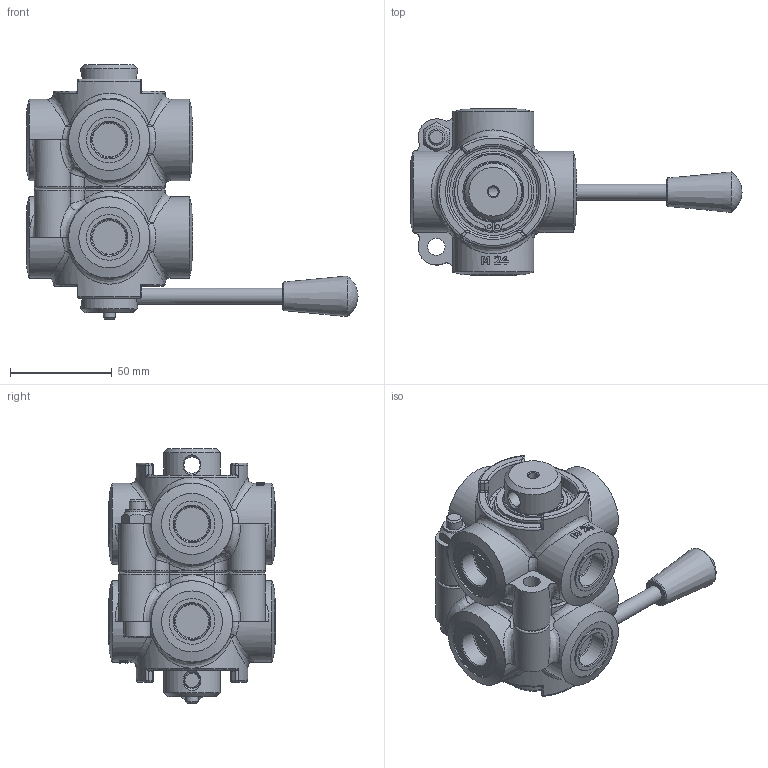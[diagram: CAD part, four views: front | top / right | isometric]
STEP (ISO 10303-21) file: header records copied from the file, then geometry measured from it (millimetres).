
FILE_DESCRIPTION((''),'2;1');
FILE_NAME('G:\HV_HYDRAULIC\AZIENDA_HV_HYDRAULIC\ARCHIVIO_DISEGNI\5_PRODOTTI_FINITI\2_DEVIATORI_INVERTITORI\7005_D8\7005.0101_D8_1-2_G_ca_(HV)\7005.0101.stp','2024-08-30T08:20:48',('christian.scardovi'),(''),'Autodesk Inventor 2013','Autodesk Inventor 2013','');
FILE_SCHEMA(('AUTOMOTIVE_DESIGN { 1 0 10303 214 1 1 1 1 }'));
Length unit declared in the file: millimetre
Products named in the file (1): 7005.0101
Bounding box: 163.5 x 82 x 125.25 mm (x, y, z)
Volume: 408498.2 mm3; surface area: 57981.1 mm2
Topology: 1 solids, 1 shells, 508 faces, 1212 edges, 722 vertices
Faces by surface type: plane 148, cylinder 137, bspline 86, torus 85, cone 31, sphere 21
Full cylindrical faces by diameter (mm): 2 x4, 4.917 x1, 6 x1, 8 x4, 8.5 x1, 11.05 x1, 13 x1, 17.5 x8, 22.5 x8, 28 x2, 28.6 x2, 29.9 x2, 30 x8, 38 x2, 40 x8, 45 x2
Entity records: 23977 total; most frequent: CARTESIAN_POINT 12974, ORIENTED_EDGE 2094, DIRECTION 2063, EDGE_CURVE 1047, AXIS2_PLACEMENT_3D 901, VERTEX_POINT 690, EDGE_LOOP 665, FACE_OUTER_BOUND 508
